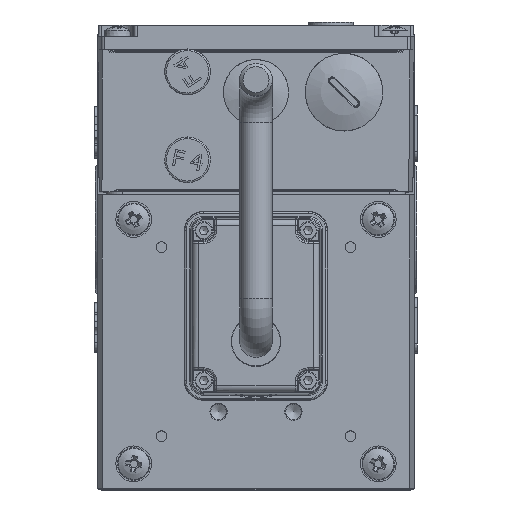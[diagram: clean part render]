
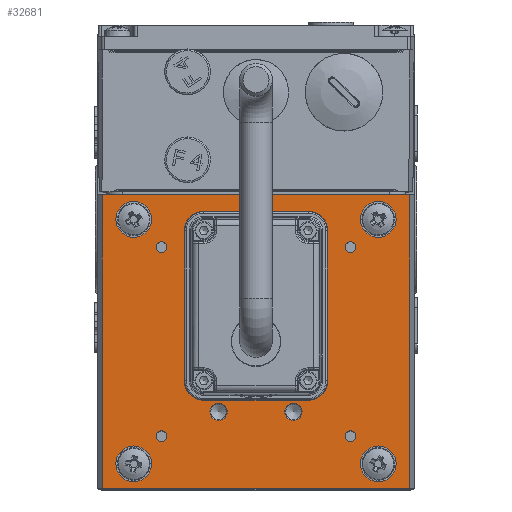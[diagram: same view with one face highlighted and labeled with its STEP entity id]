
A CAD part, top view. The second image highlights one B-rep face of the part: STEP entity #32681.
In plain terms, the highlighted planar face has unit normal (0, 0, 1).
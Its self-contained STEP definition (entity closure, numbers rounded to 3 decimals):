
#263=FACE_BOUND('',#4761,.T.);
#264=FACE_BOUND('',#4762,.T.);
#265=FACE_BOUND('',#4763,.T.);
#266=FACE_BOUND('',#4764,.T.);
#267=FACE_BOUND('',#4765,.T.);
#268=FACE_BOUND('',#4766,.T.);
#269=FACE_BOUND('',#4767,.T.);
#270=FACE_BOUND('',#4768,.T.);
#271=FACE_BOUND('',#4769,.T.);
#272=FACE_BOUND('',#4770,.T.);
#273=FACE_BOUND('',#4771,.T.);
#2802=FACE_OUTER_BOUND('',#4760,.T.);
#4760=EDGE_LOOP('',(#25915,#25916,#25917,#25918));
#4761=EDGE_LOOP('',(#25919));
#4762=EDGE_LOOP('',(#25920));
#4763=EDGE_LOOP('',(#25921));
#4764=EDGE_LOOP('',(#25922));
#4765=EDGE_LOOP('',(#25923));
#4766=EDGE_LOOP('',(#25924));
#4767=EDGE_LOOP('',(#25925));
#4768=EDGE_LOOP('',(#25926));
#4769=EDGE_LOOP('',(#25927));
#4770=EDGE_LOOP('',(#25928));
#4771=EDGE_LOOP('',(#25929));
#6370=CIRCLE('',#35595,17.4);
#6371=CIRCLE('',#35596,2.65);
#6372=CIRCLE('',#35597,2.65);
#6373=CIRCLE('',#35598,1.621);
#6374=CIRCLE('',#35599,1.621);
#6375=CIRCLE('',#35600,1.621);
#6376=CIRCLE('',#35601,1.621);
#6377=CIRCLE('',#35602,5.5);
#6378=CIRCLE('',#35603,5.5);
#6379=CIRCLE('',#35604,5.5);
#6380=CIRCLE('',#35605,5.5);
#8931=LINE('',#54213,#11488);
#8932=LINE('',#54215,#11489);
#8933=LINE('',#54217,#11490);
#8934=LINE('',#54218,#11491);
#11488=VECTOR('',#43281,90.);
#11489=VECTOR('',#43282,94.355);
#11490=VECTOR('',#43283,90.);
#11491=VECTOR('',#43284,94.355);
#14121=VERTEX_POINT('',#54211);
#14122=VERTEX_POINT('',#54212);
#14123=VERTEX_POINT('',#54214);
#14124=VERTEX_POINT('',#54216);
#14125=VERTEX_POINT('',#54219);
#14126=VERTEX_POINT('',#54221);
#14127=VERTEX_POINT('',#54223);
#14128=VERTEX_POINT('',#54225);
#14129=VERTEX_POINT('',#54227);
#14130=VERTEX_POINT('',#54229);
#14131=VERTEX_POINT('',#54231);
#14132=VERTEX_POINT('',#54233);
#14133=VERTEX_POINT('',#54235);
#14134=VERTEX_POINT('',#54237);
#14135=VERTEX_POINT('',#54239);
#18182=EDGE_CURVE('',#14121,#14122,#8931,.T.);
#18183=EDGE_CURVE('',#14123,#14122,#8932,.T.);
#18184=EDGE_CURVE('',#14123,#14124,#8933,.T.);
#18185=EDGE_CURVE('',#14121,#14124,#8934,.T.);
#18186=EDGE_CURVE('',#14125,#14125,#6370,.T.);
#18187=EDGE_CURVE('',#14126,#14126,#6371,.T.);
#18188=EDGE_CURVE('',#14127,#14127,#6372,.T.);
#18189=EDGE_CURVE('',#14128,#14128,#6373,.T.);
#18190=EDGE_CURVE('',#14129,#14129,#6374,.T.);
#18191=EDGE_CURVE('',#14130,#14130,#6375,.T.);
#18192=EDGE_CURVE('',#14131,#14131,#6376,.T.);
#18193=EDGE_CURVE('',#14132,#14132,#6377,.T.);
#18194=EDGE_CURVE('',#14133,#14133,#6378,.T.);
#18195=EDGE_CURVE('',#14134,#14134,#6379,.T.);
#18196=EDGE_CURVE('',#14135,#14135,#6380,.T.);
#25915=ORIENTED_EDGE('',*,*,#18182,.T.);
#25916=ORIENTED_EDGE('',*,*,#18183,.F.);
#25917=ORIENTED_EDGE('',*,*,#18184,.T.);
#25918=ORIENTED_EDGE('',*,*,#18185,.F.);
#25919=ORIENTED_EDGE('',*,*,#18186,.T.);
#25920=ORIENTED_EDGE('',*,*,#18187,.T.);
#25921=ORIENTED_EDGE('',*,*,#18188,.T.);
#25922=ORIENTED_EDGE('',*,*,#18189,.T.);
#25923=ORIENTED_EDGE('',*,*,#18190,.T.);
#25924=ORIENTED_EDGE('',*,*,#18191,.T.);
#25925=ORIENTED_EDGE('',*,*,#18192,.T.);
#25926=ORIENTED_EDGE('',*,*,#18193,.T.);
#25927=ORIENTED_EDGE('',*,*,#18194,.T.);
#25928=ORIENTED_EDGE('',*,*,#18195,.T.);
#25929=ORIENTED_EDGE('',*,*,#18196,.T.);
#29290=PLANE('',#35594);
#32681=ADVANCED_FACE('',(#2802,#263,#264,#265,#266,#267,#268,#269,#270,
#271,#272,#273),#29290,.T.);
#35594=AXIS2_PLACEMENT_3D('',#54210,#43279,#43280);
#35595=AXIS2_PLACEMENT_3D('',#54220,#43285,#43286);
#35596=AXIS2_PLACEMENT_3D('',#54222,#43287,#43288);
#35597=AXIS2_PLACEMENT_3D('',#54224,#43289,#43290);
#35598=AXIS2_PLACEMENT_3D('',#54226,#43291,#43292);
#35599=AXIS2_PLACEMENT_3D('',#54228,#43293,#43294);
#35600=AXIS2_PLACEMENT_3D('',#54230,#43295,#43296);
#35601=AXIS2_PLACEMENT_3D('',#54232,#43297,#43298);
#35602=AXIS2_PLACEMENT_3D('',#54234,#43299,#43300);
#35603=AXIS2_PLACEMENT_3D('',#54236,#43301,#43302);
#35604=AXIS2_PLACEMENT_3D('',#54238,#43303,#43304);
#35605=AXIS2_PLACEMENT_3D('',#54240,#43305,#43306);
#43279=DIRECTION('center_axis',(0.,0.,
1.));
#43280=DIRECTION('ref_axis',(1.,0.,0.));
#43281=DIRECTION('',(0.,1.,0.));
#43282=DIRECTION('',(1.,0.,0.));
#43283=DIRECTION('',(0.,-1.,0.));
#43284=DIRECTION('',(-1.,0.,0.));
#43285=DIRECTION('center_axis',(0.,0.,
-1.));
#43286=DIRECTION('ref_axis',(-1.,0.,0.));
#43287=DIRECTION('center_axis',(0.,0.,
-1.));
#43288=DIRECTION('ref_axis',(1.,0.,0.));
#43289=DIRECTION('center_axis',(0.,0.,
-1.));
#43290=DIRECTION('ref_axis',(1.,0.,0.));
#43291=DIRECTION('center_axis',(0.,0.,
-1.));
#43292=DIRECTION('ref_axis',(1.,0.,0.));
#43293=DIRECTION('center_axis',(0.,0.,
-1.));
#43294=DIRECTION('ref_axis',(1.,0.,0.));
#43295=DIRECTION('center_axis',(0.,0.,
-1.));
#43296=DIRECTION('ref_axis',(1.,0.,0.));
#43297=DIRECTION('center_axis',(0.,0.,
-1.));
#43298=DIRECTION('ref_axis',(1.,0.,0.));
#43299=DIRECTION('center_axis',(0.,0.,
-1.));
#43300=DIRECTION('ref_axis',(1.,0.,0.));
#43301=DIRECTION('center_axis',(0.,0.,
-1.));
#43302=DIRECTION('ref_axis',(1.,0.,0.));
#43303=DIRECTION('center_axis',(0.,0.,
-1.));
#43304=DIRECTION('ref_axis',(1.,0.,0.));
#43305=DIRECTION('center_axis',(0.,0.,
-1.));
#43306=DIRECTION('ref_axis',(1.,0.,0.));
#54210=CARTESIAN_POINT('Origin',(0.,-25.75,235.));
#54211=CARTESIAN_POINT('',(47.178,-70.75,235.));
#54212=CARTESIAN_POINT('',(47.178,19.25,235.));
#54213=CARTESIAN_POINT('',(47.178,-70.75,235.));
#54214=CARTESIAN_POINT('',(-47.178,19.25,235.));
#54215=CARTESIAN_POINT('',(-47.178,19.25,235.));
#54216=CARTESIAN_POINT('',(-47.178,-70.75,235.));
#54217=CARTESIAN_POINT('',(-47.178,19.25,235.));
#54218=CARTESIAN_POINT('',(47.178,-70.75,235.));
#54219=CARTESIAN_POINT('',(17.4,-25.75,235.));
#54220=CARTESIAN_POINT('Origin',(0.,-25.75,235.));
#54221=CARTESIAN_POINT('',(8.85,-47.25,235.));
#54222=CARTESIAN_POINT('Origin',(11.5,-47.25,235.));
#54223=CARTESIAN_POINT('',(-14.15,-47.25,235.));
#54224=CARTESIAN_POINT('Origin',(-11.5,-47.25,235.));
#54225=CARTESIAN_POINT('',(-30.621,3.25,235.));
#54226=CARTESIAN_POINT('Origin',(-29.,3.25,235.));
#54227=CARTESIAN_POINT('',(27.379,-54.75,235.));
#54228=CARTESIAN_POINT('Origin',(29.,-54.75,235.));
#54229=CARTESIAN_POINT('',(-30.621,-54.75,235.));
#54230=CARTESIAN_POINT('Origin',(-29.,-54.75,235.));
#54231=CARTESIAN_POINT('',(27.379,3.25,235.));
#54232=CARTESIAN_POINT('Origin',(29.,3.25,235.));
#54233=CARTESIAN_POINT('',(32.,11.75,235.));
#54234=CARTESIAN_POINT('Origin',(37.5,11.75,235.));
#54235=CARTESIAN_POINT('',(-43.,-63.25,235.));
#54236=CARTESIAN_POINT('Origin',(-37.5,-63.25,235.));
#54237=CARTESIAN_POINT('',(32.,-63.25,235.));
#54238=CARTESIAN_POINT('Origin',(37.5,-63.25,235.));
#54239=CARTESIAN_POINT('',(-43.,11.75,235.));
#54240=CARTESIAN_POINT('Origin',(-37.5,11.75,235.));
